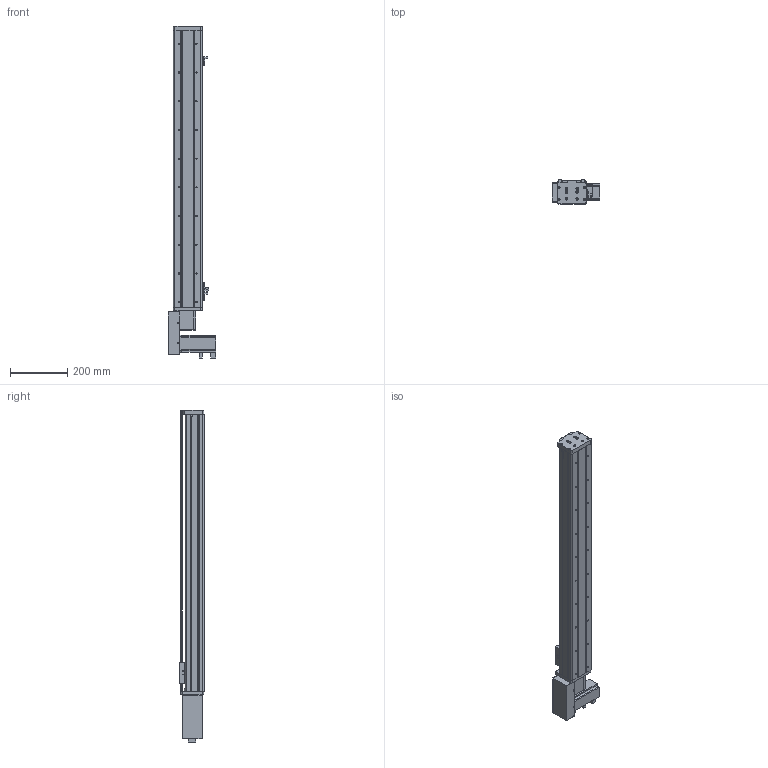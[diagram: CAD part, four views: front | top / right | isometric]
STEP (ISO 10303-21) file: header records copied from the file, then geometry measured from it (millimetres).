
FILE_DESCRIPTION (( 'STEP AP203' ), '1' );
FILE_NAME ('JDTN-100-P40-S800-2LG2SJ.STEP', '2014-03-24T01:13:43', ( 'Winiori' ), ( 'Microsoft' ), 'SwSTEP 2.0', 'SolidWorks 2007', '' );
FILE_SCHEMA (( 'CONFIG_CONTROL_DESIGN' ));
Length unit declared in the file: millimetre
Products named in the file (1): JDTN-100-P40-S800-2LG2SJ
Bounding box: 165 x 85.5 x 1156.5 mm (x, y, z)
Surface area: 646018.9 mm2 (no closed solid volume)
Topology: 0 solids, 32 shells, 527 faces, 2297 edges, 1780 vertices
Faces by surface type: plane 295, cylinder 228, cone 4
Entity records: 24442 total; most frequent: CARTESIAN_POINT 4697, DIRECTION 4316, ORIENTED_EDGE 3434, EDGE_CURVE 2297, VERTEX_POINT 1780, AXIS2_PLACEMENT_3D 1509, VECTOR 1298, LINE 1298
